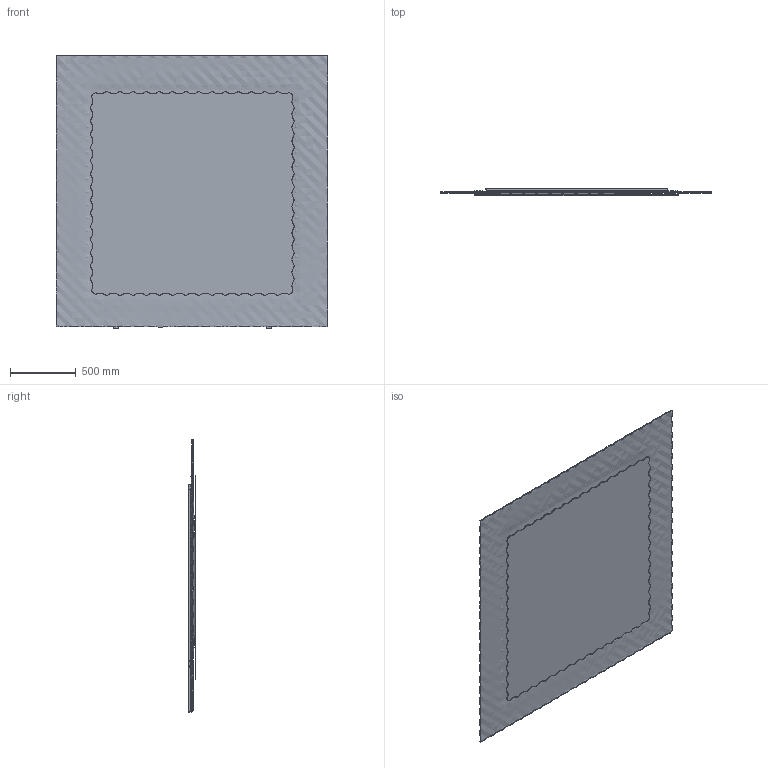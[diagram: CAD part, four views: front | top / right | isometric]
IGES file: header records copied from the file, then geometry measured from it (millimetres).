
Global section: file name: Z:\3D_LQ\POP_rev2021\xWeb\206x206\POP_206x206.igs; native system: Rhinoceros ( Aug 11 2021 ); preprocessor: Trout Lake IGES 012 Aug 11 2021; date: 250221.164353; units: millimetre
Bounding box: 2062.08 x 57.97 x 2070.4 mm (x, y, z)
Surface area: 15241101.4 mm2 (no closed solid volume)
Topology: 0 solids, 0 shells, 153 faces, 4323 edges, 4320 vertices
Faces by surface type: bspline 153
